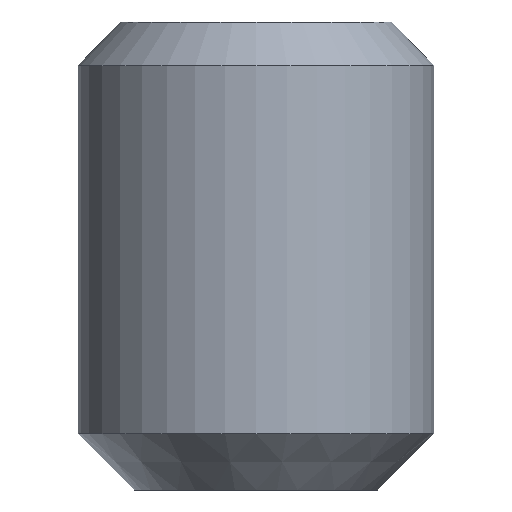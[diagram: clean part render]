
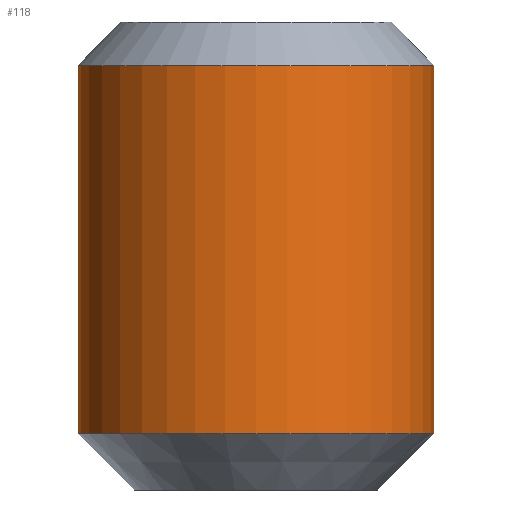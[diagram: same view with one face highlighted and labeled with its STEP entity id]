
A CAD part, left-side view. The second image highlights one B-rep face of the part: STEP entity #118.
In plain terms, the highlighted cylindrical face has radius 2.413 mm (diameter 4.826 mm), a partial arc.
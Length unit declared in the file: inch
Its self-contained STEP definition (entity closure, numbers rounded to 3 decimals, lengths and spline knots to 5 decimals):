
#1 = VERTEX_POINT ( 'NONE', #508 ) ;
#10 = CARTESIAN_POINT ( 'NONE',  ( 0., 0., 0.34515 ) ) ;
#36 = AXIS2_PLACEMENT_3D ( 'NONE', #436, #683, #321 ) ;
#37 = DIRECTION ( 'NONE',  ( 0., 1., 0. ) ) ;
#55 = EDGE_CURVE ( 'NONE', #1, #672, #570, .T. ) ;
#59 = CIRCLE ( 'NONE', #344, 0.095 ) ;
#69 = DIRECTION ( 'NONE',  ( 0., 0., 1. ) ) ;
#75 = CARTESIAN_POINT ( 'NONE',  ( 0., -0.095, -0.0233 ) ) ;
#109 = EDGE_LOOP ( 'NONE', ( #792, #175, #757, #526 ) ) ;
#118 = ADVANCED_FACE ( 'NONE', ( #751 ), #736, .T. ) ;
#129 = CARTESIAN_POINT ( 'NONE',  ( 0., -0.095, 0.34515 ) ) ;
#156 = CARTESIAN_POINT ( 'NONE',  ( 0., 0.095, -0.22 ) ) ;
#160 = CARTESIAN_POINT ( 'NONE',  ( 0., 0., -0.22 ) ) ;
#163 = CARTESIAN_POINT ( 'NONE',  ( 0., 0.095, -0.0233 ) ) ;
#170 = DIRECTION ( 'NONE',  ( 0., 0., 1. ) ) ;
#172 = VERTEX_POINT ( 'NONE', #163 ) ;
#175 = ORIENTED_EDGE ( 'NONE', *, *, #55, .T. ) ;
#183 = VECTOR ( 'NONE', #678, 39.37008 ) ;
#184 = CIRCLE ( 'NONE', #36, 0.095 ) ;
#200 = LINE ( 'NONE', #499, #183 ) ;
#202 = EDGE_CURVE ( 'NONE', #387, #1, #59, .T. ) ;
#211 = DIRECTION ( 'NONE',  ( 0., 0., 1. ) ) ;
#319 = VECTOR ( 'NONE', #69, 39.37008 ) ;
#321 = DIRECTION ( 'NONE',  ( 0., 1., 0. ) ) ;
#344 = AXIS2_PLACEMENT_3D ( 'NONE', #160, #170, #37 ) ;
#387 = VERTEX_POINT ( 'NONE', #156 ) ;
#404 = AXIS2_PLACEMENT_3D ( 'NONE', #10, #211, #625 ) ;
#436 = CARTESIAN_POINT ( 'NONE',  ( 0., 0., -0.0233 ) ) ;
#499 = CARTESIAN_POINT ( 'NONE',  ( 0., 0.095, 0.34515 ) ) ;
#508 = CARTESIAN_POINT ( 'NONE',  ( 0., -0.095, -0.22 ) ) ;
#526 = ORIENTED_EDGE ( 'NONE', *, *, #620, .F. ) ;
#570 = LINE ( 'NONE', #129, #319 ) ;
#620 = EDGE_CURVE ( 'NONE', #387, #172, #200, .T. ) ;
#625 = DIRECTION ( 'NONE',  ( 0., 1., 0. ) ) ;
#672 = VERTEX_POINT ( 'NONE', #75 ) ;
#678 = DIRECTION ( 'NONE',  ( 0., 0., 1. ) ) ;
#683 = DIRECTION ( 'NONE',  ( 0., 0., 1. ) ) ;
#736 = CYLINDRICAL_SURFACE ( 'NONE', #404, 0.095 ) ;
#751 = FACE_OUTER_BOUND ( 'NONE', #109, .T. ) ;
#757 = ORIENTED_EDGE ( 'NONE', *, *, #773, .F. ) ;
#773 = EDGE_CURVE ( 'NONE', #172, #672, #184, .T. ) ;
#792 = ORIENTED_EDGE ( 'NONE', *, *, #202, .T. ) ;
